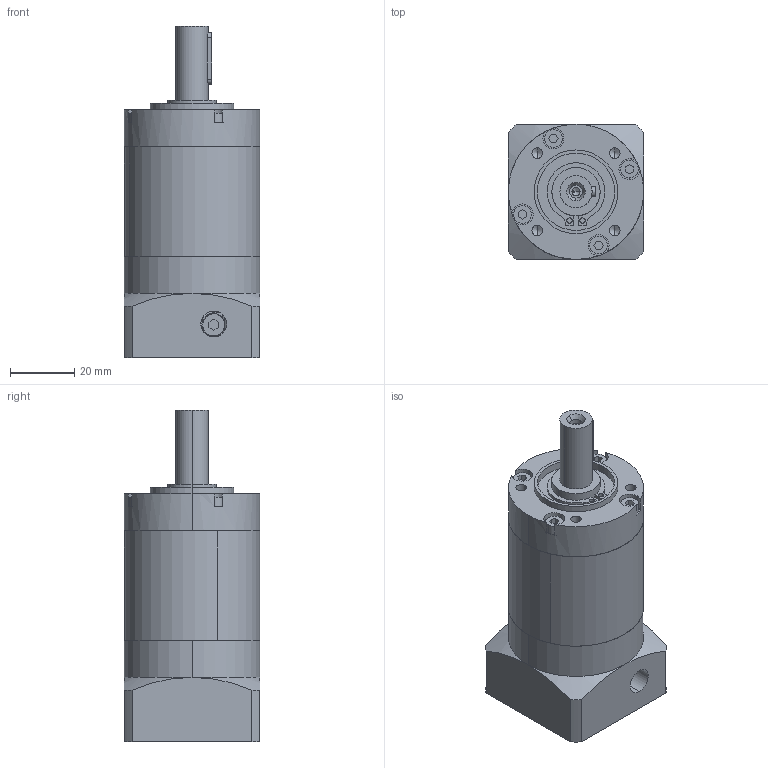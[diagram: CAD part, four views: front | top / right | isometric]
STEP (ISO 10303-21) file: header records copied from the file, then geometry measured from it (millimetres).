
FILE_DESCRIPTION (( 'STEP AP214' ), '1' );
FILE_NAME ('PLE040-L2-S2-P2 8-30-46-M4.STEP', '2021-04-24T02:47:21', ( 'Microsoft' ), ( 'Microsoft China' ), 'SwSTEP 2.0', 'SolidWorks 2016', '' );
FILE_SCHEMA (( 'AUTOMOTIVE_DESIGN' ));
Length unit declared in the file: millimetre
Products named in the file (7): PLE40 內齿圈_二级内齿圈; PLE40 奻屳唳_D1-70 D2-5.5 D3-14 D4-17 D5-50 L1-30 L2-35 L3-3 A1-60 S1-3 S2-20 S3-5 S4-18 B-5 H-16 C-M5; PLE040-L2-S2-P2 8-30-46-M4; GB／T276-94深沟球轴承61902-2RZ; 囀鞠褒蹟佪-M4℅12; 邧埴瑩 3x3x16; PLE40 帣釱_D6-60 D7-14 梓袧
Assembly tree (6 placements, depth 2):
  PLE040-L2-S2-P2 8-30-46-M4
    PLE40 奻屳唳_D1-70 D2-5.5 D3-14 D4-17 D5-50 L1-30 L2-35 L3-3 A1-60 S1-3 S2-20 S3-5 S4-18 B-5 H-16 C-M5
    PLE40 內齿圈_二级内齿圈
    PLE40 帣釱_D6-60 D7-14 梓袧
    邧埴瑩 3x3x16
    囀鞠褒蹟佪-M4℅12
    GB／T276-94深沟球轴承61902-2RZ
Bounding box: 42 x 42 x 103 mm (x, y, z)
Volume: 101237.8 mm3; surface area: 33096.8 mm2
Topology: 6 solids, 10 shells, 418 faces, 1118 edges, 725 vertices
Faces by surface type: cylinder 142, plane 136, bspline 118, cone 22
Entity records: 23589 total; most frequent: CARTESIAN_POINT 9042, ORIENTED_EDGE 2200, DIRECTION 1791, EDGE_CURVE 1100, AXIS2_PLACEMENT_3D 734, VERTEX_POINT 725, EDGE_LOOP 491, UNCERTAINTY_MEASURE_WITH_UNIT 437
